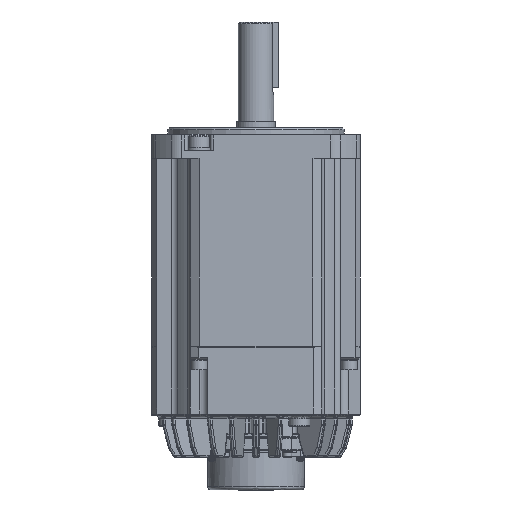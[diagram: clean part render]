
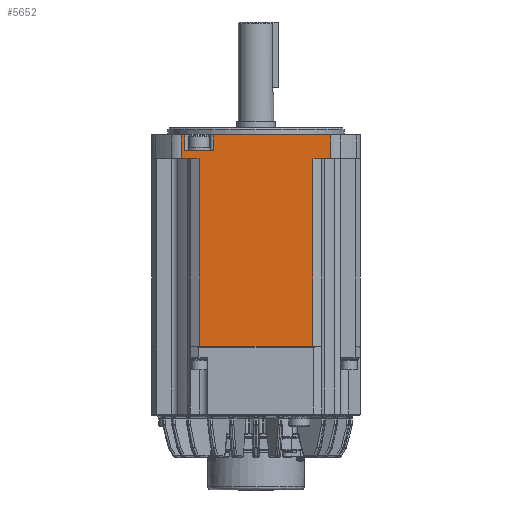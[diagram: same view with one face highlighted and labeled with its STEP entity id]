
A CAD part, front view. The second image highlights one B-rep face of the part: STEP entity #5652.
In plain terms, the highlighted planar face has unit normal (0, -1, 0).
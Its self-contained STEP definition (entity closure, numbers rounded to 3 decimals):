
#239 = CARTESIAN_POINT ( 'NONE',  ( 140.822, 92.483, 97.184 ) ) ;
#3921 = VECTOR ( 'NONE', #24984, 1000. ) ;
#5652 = ADVANCED_FACE ( 'NONE', ( #78382 ), #101091, .T. ) ;
#6295 = VERTEX_POINT ( 'NONE', #33650 ) ;
#6512 = CARTESIAN_POINT ( 'NONE',  ( 202.822, 92.483, 97.184 ) ) ;
#7020 = VECTOR ( 'NONE', #11414, 1000. ) ;
#7400 = LINE ( 'NONE', #49380, #39978 ) ;
#7544 = EDGE_CURVE ( 'NONE', #109076, #106646, #77306, .T. ) ;
#8117 = DIRECTION ( 'NONE',  ( -1., 0., 0. ) ) ;
#9080 = EDGE_CURVE ( 'NONE', #59766, #75349, #132883, .T. ) ;
#11414 = DIRECTION ( 'NONE',  ( 0., 0., 1. ) ) ;
#11946 = CARTESIAN_POINT ( 'NONE',  ( 202.822, 92.483, 97.184 ) ) ;
#11950 = VECTOR ( 'NONE', #31152, 1000. ) ;
#13799 = LINE ( 'NONE', #83868, #140785 ) ;
#14548 = VECTOR ( 'NONE', #148697, 1000. ) ;
#16636 = LINE ( 'NONE', #43393, #78089 ) ;
#17996 = DIRECTION ( 'NONE',  ( 0., 0., 1. ) ) ;
#22315 = VECTOR ( 'NONE', #133061, 1000. ) ;
#23675 = ORIENTED_EDGE ( 'NONE', *, *, #52067, .T. ) ;
#24642 = ORIENTED_EDGE ( 'NONE', *, *, #9080, .T. ) ;
#24984 = DIRECTION ( 'NONE',  ( 0., 0., -1. ) ) ;
#25297 = CARTESIAN_POINT ( 'NONE',  ( 202.822, 92.483, 228.884 ) ) ;
#27439 = VECTOR ( 'NONE', #86520, 1000. ) ;
#28304 = CARTESIAN_POINT ( 'NONE',  ( 122.822, 92.483, 228.884 ) ) ;
#28529 = ORIENTED_EDGE ( 'NONE', *, *, #7544, .T. ) ;
#31152 = DIRECTION ( 'NONE',  ( 1., 0., 0. ) ) ;
#31253 = LINE ( 'NONE', #25297, #27439 ) ;
#32834 = VERTEX_POINT ( 'NONE', #85484 ) ;
#33290 = CARTESIAN_POINT ( 'NONE',  ( 202.822, 92.483, 228.884 ) ) ;
#33650 = CARTESIAN_POINT ( 'NONE',  ( 213.787, 92.483, 228.884 ) ) ;
#34916 = DIRECTION ( 'NONE',  ( -1., 0., 0. ) ) ;
#37366 = VECTOR ( 'NONE', #139375, 1000. ) ;
#38197 = VERTEX_POINT ( 'NONE', #79528 ) ;
#39978 = VECTOR ( 'NONE', #135515, 1000. ) ;
#41412 = CARTESIAN_POINT ( 'NONE',  ( 167.322, 92.483, 97.184 ) ) ;
#43393 = CARTESIAN_POINT ( 'NONE',  ( 202.822, 92.483, 97.184 ) ) ;
#43597 = VECTOR ( 'NONE', #8117, 1000. ) ;
#45659 = CARTESIAN_POINT ( 'NONE',  ( 213.787, 92.483, 214.184 ) ) ;
#47262 = CARTESIAN_POINT ( 'NONE',  ( 120.857, 92.483, 214.184 ) ) ;
#48009 = VERTEX_POINT ( 'NONE', #144406 ) ;
#49250 = VERTEX_POINT ( 'NONE', #79591 ) ;
#49380 = CARTESIAN_POINT ( 'NONE',  ( 202.822, 92.483, 219.184 ) ) ;
#51900 = EDGE_CURVE ( 'NONE', #38197, #56734, #147161, .T. ) ;
#52067 = EDGE_CURVE ( 'NONE', #75349, #48009, #70008, .T. ) ;
#54404 = EDGE_CURVE ( 'NONE', #56734, #59766, #31253, .T. ) ;
#55385 = CARTESIAN_POINT ( 'NONE',  ( 120.857, 92.483, 228.884 ) ) ;
#55462 = CARTESIAN_POINT ( 'NONE',  ( 213.787, 92.483, 97.184 ) ) ;
#56679 = ORIENTED_EDGE ( 'NONE', *, *, #68974, .T. ) ;
#56734 = VERTEX_POINT ( 'NONE', #28304 ) ;
#57960 = VERTEX_POINT ( 'NONE', #96282 ) ;
#57965 = EDGE_CURVE ( 'NONE', #151300, #99630, #13799, .T. ) ;
#58517 = ORIENTED_EDGE ( 'NONE', *, *, #151148, .T. ) ;
#59766 = VERTEX_POINT ( 'NONE', #55385 ) ;
#61088 = VECTOR ( 'NONE', #134437, 1000. ) ;
#67034 = ORIENTED_EDGE ( 'NONE', *, *, #120757, .T. ) ;
#68974 = EDGE_CURVE ( 'NONE', #6295, #32834, #137974, .T. ) ;
#69652 = CARTESIAN_POINT ( 'NONE',  ( 130.033, 92.483, 219.184 ) ) ;
#70008 = LINE ( 'NONE', #89849, #37366 ) ;
#71685 = CARTESIAN_POINT ( 'NONE',  ( 131.821, 92.483, 97.184 ) ) ;
#75349 = VERTEX_POINT ( 'NONE', #47262 ) ;
#76038 = LINE ( 'NONE', #136265, #14548 ) ;
#76795 = ORIENTED_EDGE ( 'NONE', *, *, #140756, .T. ) ;
#77306 = LINE ( 'NONE', #6512, #11950 ) ;
#78089 = VECTOR ( 'NONE', #92379, 1000. ) ;
#78382 = FACE_OUTER_BOUND ( 'NONE', #101079, .T. ) ;
#79213 = CARTESIAN_POINT ( 'NONE',  ( 120.857, 92.483, 97.184 ) ) ;
#79289 = ORIENTED_EDGE ( 'NONE', *, *, #118892, .T. ) ;
#79528 = CARTESIAN_POINT ( 'NONE',  ( 122.822, 92.483, 219.184 ) ) ;
#79591 = CARTESIAN_POINT ( 'NONE',  ( 140.822, 92.483, 219.184 ) ) ;
#83868 = CARTESIAN_POINT ( 'NONE',  ( 202.822, 92.483, 219.184 ) ) ;
#83884 = ORIENTED_EDGE ( 'NONE', *, *, #54404, .T. ) ;
#84366 = CARTESIAN_POINT ( 'NONE',  ( 202.822, 92.483, 214.184 ) ) ;
#85484 = CARTESIAN_POINT ( 'NONE',  ( 140.822, 92.483, 228.884 ) ) ;
#86520 = DIRECTION ( 'NONE',  ( -1., 0., 0. ) ) ;
#86872 = ORIENTED_EDGE ( 'NONE', *, *, #104502, .T. ) ;
#87725 = LINE ( 'NONE', #71685, #22315 ) ;
#89620 = ORIENTED_EDGE ( 'NONE', *, *, #152021, .T. ) ;
#89849 = CARTESIAN_POINT ( 'NONE',  ( 202.822, 92.483, 214.184 ) ) ;
#92379 = DIRECTION ( 'NONE',  ( 1., 0., 0. ) ) ;
#95888 = CARTESIAN_POINT ( 'NONE',  ( 122.822, 92.483, 97.184 ) ) ;
#96282 = CARTESIAN_POINT ( 'NONE',  ( 131.821, 92.483, 97.184 ) ) ;
#97204 = EDGE_CURVE ( 'NONE', #32834, #49250, #134663, .T. ) ;
#99198 = ORIENTED_EDGE ( 'NONE', *, *, #57965, .T. ) ;
#99630 = VERTEX_POINT ( 'NONE', #69652 ) ;
#99871 = DIRECTION ( 'NONE',  ( 0., 0., -1. ) ) ;
#99903 = ORIENTED_EDGE ( 'NONE', *, *, #121143, .T. ) ;
#100055 = DIRECTION ( 'NONE',  ( 0., -1., 0. ) ) ;
#100189 = VECTOR ( 'NONE', #116883, 1000. ) ;
#100585 = CARTESIAN_POINT ( 'NONE',  ( 202.822, 92.483, 97.184 ) ) ;
#101079 = EDGE_LOOP ( 'NONE', ( #83884, #24642, #23675, #99903, #67034, #28529, #58517, #89620, #76795, #56679, #157695, #79289, #99198, #86872, #149526 ) ) ;
#101091 = PLANE ( 'NONE',  #148720 ) ;
#104502 = EDGE_CURVE ( 'NONE', #99630, #38197, #155548, .T. ) ;
#106646 = VERTEX_POINT ( 'NONE', #114273 ) ;
#108830 = VERTEX_POINT ( 'NONE', #45659 ) ;
#109076 = VERTEX_POINT ( 'NONE', #41412 ) ;
#111209 = VERTEX_POINT ( 'NONE', #84366 ) ;
#114273 = CARTESIAN_POINT ( 'NONE',  ( 202.822, 92.483, 97.184 ) ) ;
#114479 = VECTOR ( 'NONE', #17996, 1000. ) ;
#115655 = CARTESIAN_POINT ( 'NONE',  ( 133.61, 92.483, 219.184 ) ) ;
#116883 = DIRECTION ( 'NONE',  ( 0., 0., -1. ) ) ;
#118892 = EDGE_CURVE ( 'NONE', #49250, #151300, #7400, .T. ) ;
#120757 = EDGE_CURVE ( 'NONE', #57960, #109076, #16636, .T. ) ;
#121143 = EDGE_CURVE ( 'NONE', #48009, #57960, #87725, .T. ) ;
#122093 = CARTESIAN_POINT ( 'NONE',  ( 202.822, 92.483, 219.184 ) ) ;
#129276 = DIRECTION ( 'NONE',  ( 0., 0., 1. ) ) ;
#132883 = LINE ( 'NONE', #79213, #100189 ) ;
#133061 = DIRECTION ( 'NONE',  ( 0., 0., -1. ) ) ;
#133919 = LINE ( 'NONE', #11946, #7020 ) ;
#134437 = DIRECTION ( 'NONE',  ( -1., 0., 0. ) ) ;
#134663 = LINE ( 'NONE', #239, #3921 ) ;
#135515 = DIRECTION ( 'NONE',  ( -1., 0., 0. ) ) ;
#136265 = CARTESIAN_POINT ( 'NONE',  ( 202.822, 92.483, 214.184 ) ) ;
#137974 = LINE ( 'NONE', #33290, #43597 ) ;
#139375 = DIRECTION ( 'NONE',  ( 1., 0., 0. ) ) ;
#140756 = EDGE_CURVE ( 'NONE', #108830, #6295, #148928, .T. ) ;
#140785 = VECTOR ( 'NONE', #34916, 1000. ) ;
#144406 = CARTESIAN_POINT ( 'NONE',  ( 131.821, 92.483, 214.184 ) ) ;
#147161 = LINE ( 'NONE', #95888, #114479 ) ;
#148697 = DIRECTION ( 'NONE',  ( 1., 0., 0. ) ) ;
#148720 = AXIS2_PLACEMENT_3D ( 'NONE', #100585, #100055, #99871 ) ;
#148928 = LINE ( 'NONE', #55462, #156560 ) ;
#149526 = ORIENTED_EDGE ( 'NONE', *, *, #51900, .T. ) ;
#151148 = EDGE_CURVE ( 'NONE', #106646, #111209, #133919, .T. ) ;
#151300 = VERTEX_POINT ( 'NONE', #115655 ) ;
#152021 = EDGE_CURVE ( 'NONE', #111209, #108830, #76038, .T. ) ;
#155548 = LINE ( 'NONE', #122093, #61088 ) ;
#156560 = VECTOR ( 'NONE', #129276, 1000. ) ;
#157695 = ORIENTED_EDGE ( 'NONE', *, *, #97204, .T. ) ;
